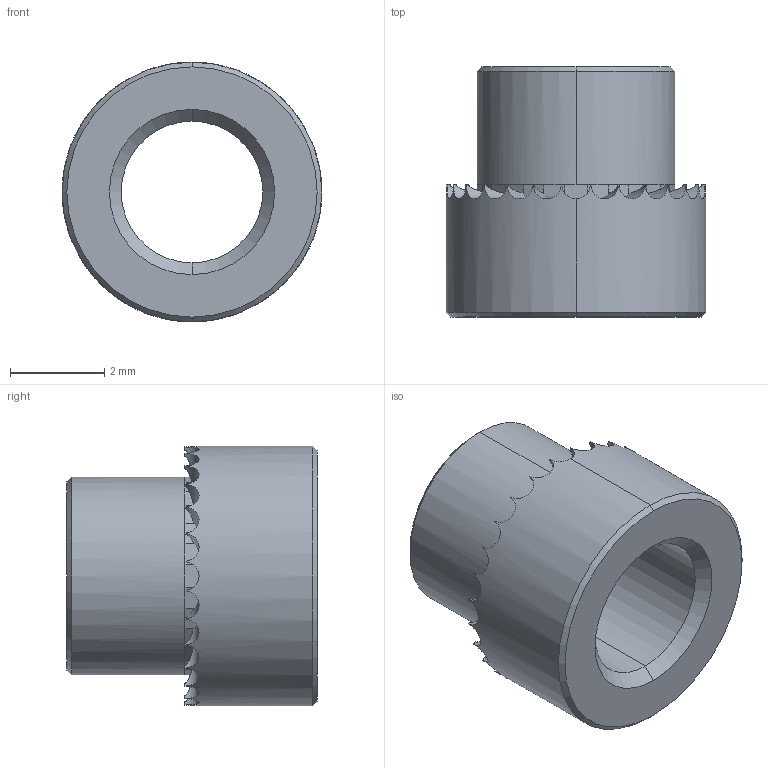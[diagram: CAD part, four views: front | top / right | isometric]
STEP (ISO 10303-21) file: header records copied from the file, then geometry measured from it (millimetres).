
FILE_DESCRIPTION (( 'STEP AP203' ), '1' );
FILE_NAME ('P0829.030-14G-ZP.step', '2019-03-21T22:13:35', ( '' ), ( '' ), 'SwSTEP 2.0', 'SolidWorks 2017', '' );
FILE_SCHEMA (( 'CONFIG_CONTROL_DESIGN' ));
Length unit declared in the file: millimetre
Products named in the file (1): P0829.030-14G-ZP
Bounding box: 5.5 x 5.3 x 5.5 mm (x, y, z)
Volume: 60.3 mm3; surface area: 162.7 mm2
Topology: 1 solids, 1 shells, 128 faces, 312 edges, 186 vertices
Faces by surface type: plane 86, cylinder 34, cone 8
Entity records: 3963 total; most frequent: CARTESIAN_POINT 965, ORIENTED_EDGE 624, DIRECTION 612, EDGE_CURVE 312, AXIS2_PLACEMENT_3D 229, VERTEX_POINT 186, VECTOR 154, LINE 154
